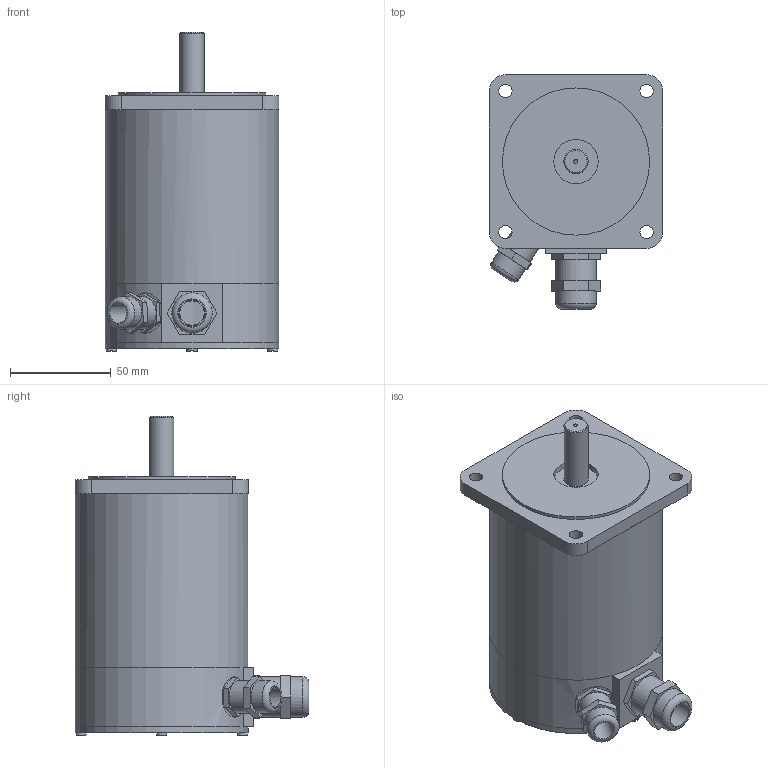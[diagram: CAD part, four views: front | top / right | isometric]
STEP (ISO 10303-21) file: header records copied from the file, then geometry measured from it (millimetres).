
FILE_DESCRIPTION((''),'2;1');
FILE_NAME('C:\Users\Reinhard\Documents\Inventor\Testschrittmotor\SM88\SM88.2-E50-KV.stp','2012-11-12T20:26:17',('Reinhard'),(''),'Autodesk Inventor 2012','Autodesk Inventor 2012','');
FILE_SCHEMA(('CONFIG_CONTROL_DESIGN'));
Length unit declared in the file: millimetre
Products named in the file (1): SM88
Bounding box: 86 x 115.99 x 158.4 mm (x, y, z)
Volume: 162201.3 mm3; surface area: 97803.9 mm2
Topology: 2 solids, 2 shells, 137 faces, 310 edges, 201 vertices
Faces by surface type: plane 84, cylinder 46, cone 3, sphere 2, torus 2
Full cylindrical faces by diameter (mm): 2 x1, 5 x4, 6.6 x4, 10 x1, 12 x3, 13 x2, 15 x1, 16 x2, 18.376 x1, 20 x3, 22 x1, 73 x1, 78 x2, 82 x1, 86 x2
Entity records: 3735 total; most frequent: CARTESIAN_POINT 724, DIRECTION 635, ORIENTED_EDGE 532, EDGE_CURVE 266, AXIS2_PLACEMENT_3D 244, EDGE_LOOP 209, VERTEX_POINT 191, VECTOR 147
